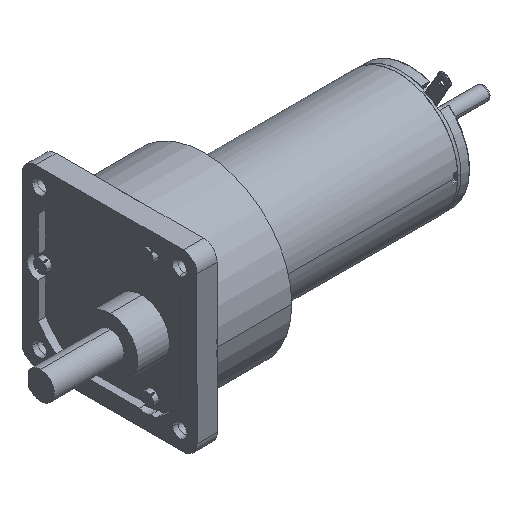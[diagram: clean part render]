
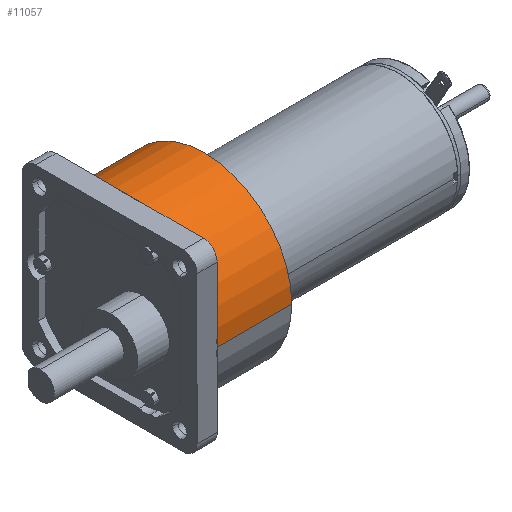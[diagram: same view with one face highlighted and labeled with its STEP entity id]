
A CAD part, isometric view. The second image highlights one B-rep face of the part: STEP entity #11057.
In plain terms, the highlighted cylindrical face has radius 19 mm (diameter 38 mm), a partial arc.
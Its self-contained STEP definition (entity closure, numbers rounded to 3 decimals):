
#159 = DIRECTION ( 'NONE',  ( 0., 0., -1. ) ) ;
#386 = EDGE_CURVE ( 'NONE', #6761, #2197, #3823, .T. ) ;
#683 = ORIENTED_EDGE ( 'NONE', *, *, #386, .F. ) ;
#1040 = CARTESIAN_POINT ( 'NONE',  ( 4.4, 0., -12. ) ) ;
#1097 = DIRECTION ( 'NONE',  ( 0., 0., -1. ) ) ;
#1659 = CARTESIAN_POINT ( 'NONE',  ( 4.4, 0., 7. ) ) ;
#2020 = CIRCLE ( 'NONE', #7722, 19. ) ;
#2197 = VERTEX_POINT ( 'NONE', #17291 ) ;
#3011 = VERTEX_POINT ( 'NONE', #6590 ) ;
#3590 = AXIS2_PLACEMENT_3D ( 'NONE', #1659, #18453, #159 ) ;
#3791 = VERTEX_POINT ( 'NONE', #1040 ) ;
#3823 = LINE ( 'NONE', #14434, #15069 ) ;
#4242 = DIRECTION ( 'NONE',  ( 1., 0., 0. ) ) ;
#4294 = CYLINDRICAL_SURFACE ( 'NONE', #3590, 19. ) ;
#4400 = EDGE_CURVE ( 'NONE', #6761, #3011, #13964, .T. ) ;
#5602 = DIRECTION ( 'NONE',  ( 1., 0., 0. ) ) ;
#6453 = CIRCLE ( 'NONE', #10910, 19. ) ;
#6590 = CARTESIAN_POINT ( 'NONE',  ( 4.4, -19., 7. ) ) ;
#6761 = VERTEX_POINT ( 'NONE', #12125 ) ;
#6795 = VERTEX_POINT ( 'NONE', #18314 ) ;
#6813 = DIRECTION ( 'NONE',  ( 1., 0., 0. ) ) ;
#6945 = ORIENTED_EDGE ( 'NONE', *, *, #4400, .T. ) ;
#7722 = AXIS2_PLACEMENT_3D ( 'NONE', #19444, #10241, #1097 ) ;
#8902 = DIRECTION ( 'NONE',  ( 1., 0., 0. ) ) ;
#10241 = DIRECTION ( 'NONE',  ( -1., 0., 0. ) ) ;
#10654 = LINE ( 'NONE', #16294, #14724 ) ;
#10910 = AXIS2_PLACEMENT_3D ( 'NONE', #13391, #4242, #14912 ) ;
#11057 = ADVANCED_FACE ( 'NONE', ( #13851 ), #4294, .T. ) ;
#11173 = ORIENTED_EDGE ( 'NONE', *, *, #12312, .T. ) ;
#12125 = CARTESIAN_POINT ( 'NONE',  ( 4.4, 0., 26. ) ) ;
#12312 = EDGE_CURVE ( 'NONE', #3791, #6795, #10654, .T. ) ;
#13391 = CARTESIAN_POINT ( 'NONE',  ( 4.4, 0., 7. ) ) ;
#13519 = ORIENTED_EDGE ( 'NONE', *, *, #15905, .T. ) ;
#13530 = ORIENTED_EDGE ( 'NONE', *, *, #15388, .T. ) ;
#13850 = AXIS2_PLACEMENT_3D ( 'NONE', #18108, #8902, #19649 ) ;
#13851 = FACE_OUTER_BOUND ( 'NONE', #19265, .T. ) ;
#13964 = CIRCLE ( 'NONE', #13850, 19. ) ;
#14434 = CARTESIAN_POINT ( 'NONE',  ( 4.4, 0., 26. ) ) ;
#14724 = VECTOR ( 'NONE', #5602, 1000. ) ;
#14912 = DIRECTION ( 'NONE',  ( 0., 0., -1. ) ) ;
#15069 = VECTOR ( 'NONE', #6813, 1000. ) ;
#15388 = EDGE_CURVE ( 'NONE', #3011, #3791, #6453, .T. ) ;
#15905 = EDGE_CURVE ( 'NONE', #6795, #2197, #2020, .T. ) ;
#16294 = CARTESIAN_POINT ( 'NONE',  ( 4.4, 0., -12. ) ) ;
#17291 = CARTESIAN_POINT ( 'NONE',  ( 20.6, 0., 26. ) ) ;
#18108 = CARTESIAN_POINT ( 'NONE',  ( 4.4, 0., 7. ) ) ;
#18314 = CARTESIAN_POINT ( 'NONE',  ( 20.6, 0., -12. ) ) ;
#18453 = DIRECTION ( 'NONE',  ( 1., 0., 0. ) ) ;
#19265 = EDGE_LOOP ( 'NONE', ( #683, #6945, #13530, #11173, #13519 ) ) ;
#19444 = CARTESIAN_POINT ( 'NONE',  ( 20.6, 0., 7. ) ) ;
#19649 = DIRECTION ( 'NONE',  ( 0., 0., -1. ) ) ;
